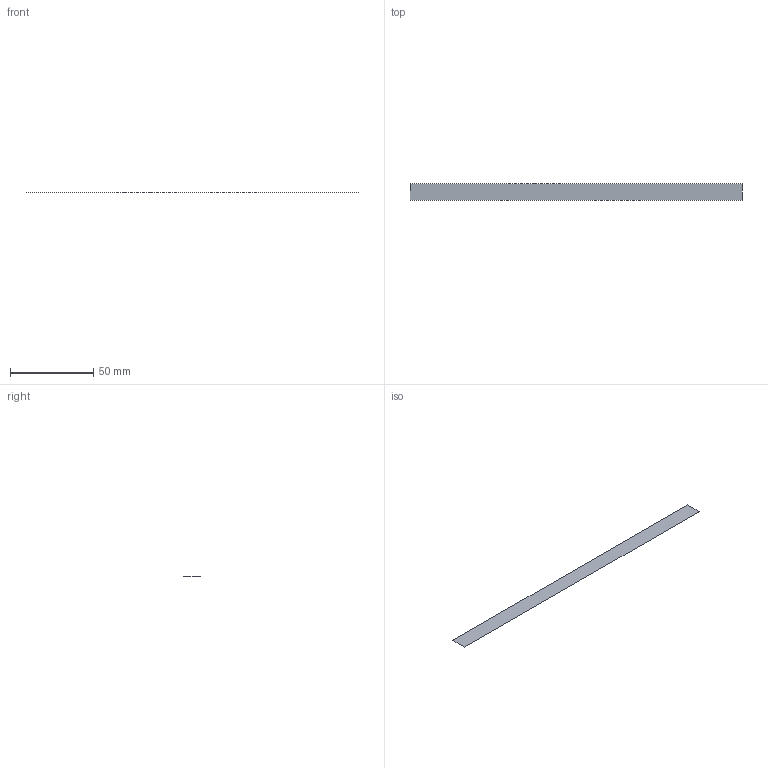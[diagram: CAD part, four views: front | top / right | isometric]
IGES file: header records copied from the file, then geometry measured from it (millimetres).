
Start section: 3D InterOp IGES (v. 2019 1.0.0), Spatial Corp. Copyright (c) 1999-2017.
Global section: file name: Car.igs; native system: Spatial Corp.; preprocessor: 3D InterOp ACIS/IGES; author: Noname; organization: Noname; date: 20220417.105319; units: millimetre
Bounding box: 200 x 10 x 0 mm (x, y, z)
Surface area: 2000 mm2 (no closed solid volume)
Topology: 0 solids, 0 shells, 1 faces, 4 edges, 4 vertices
Faces by surface type: extrusion 1
